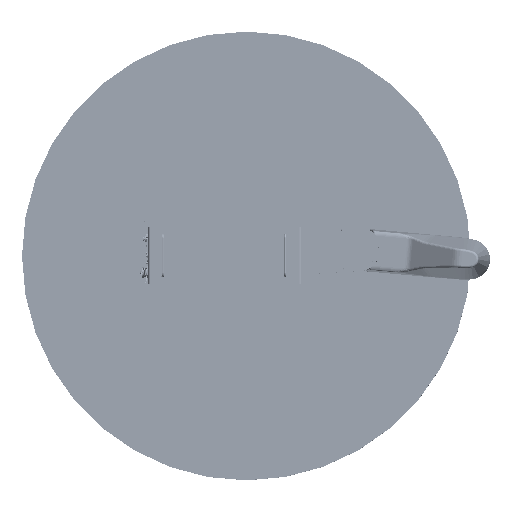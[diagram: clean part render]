
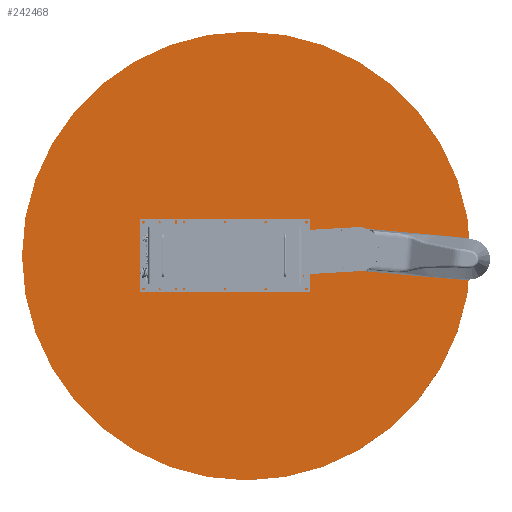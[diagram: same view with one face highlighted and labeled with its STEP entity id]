
A CAD part, top view. The second image highlights one B-rep face of the part: STEP entity #242468.
In plain terms, the highlighted planar face has unit normal (0, 0, 1) as drawn and (0, 1, 0) by its records, which use the part's own axes.
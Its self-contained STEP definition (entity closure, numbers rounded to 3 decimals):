
#10653 = CIRCLE ( 'NONE', #168364, 550. ) ;
#21027 = DIRECTION ( 'NONE',  ( 0., 0., 1. ) ) ;
#45183 = FACE_OUTER_BOUND ( 'NONE', #253695, .T. ) ;
#60055 = VERTEX_POINT ( 'NONE', #170536 ) ;
#62907 = EDGE_CURVE ( 'NONE', #60055, #138890, #228118, .T. ) ;
#74538 = ORIENTED_EDGE ( 'NONE', *, *, #62907, .T. ) ;
#79814 = CARTESIAN_POINT ( 'NONE',  ( 0., 140., -550. ) ) ;
#106283 = PLANE ( 'NONE',  #136913 ) ;
#122826 = ORIENTED_EDGE ( 'NONE', *, *, #184221, .T. ) ;
#129513 = CARTESIAN_POINT ( 'NONE',  ( 0., 140., 0. ) ) ;
#136913 = AXIS2_PLACEMENT_3D ( 'NONE', #148566, #252584, #231419 ) ;
#138890 = VERTEX_POINT ( 'NONE', #79814 ) ;
#148566 = CARTESIAN_POINT ( 'NONE',  ( 0., 140., 0. ) ) ;
#168364 = AXIS2_PLACEMENT_3D ( 'NONE', #242697, #222422, #262978 ) ;
#170536 = CARTESIAN_POINT ( 'NONE',  ( 0., 140., 550. ) ) ;
#171026 = DIRECTION ( 'NONE',  ( 0., 1., 0. ) ) ;
#172604 = AXIS2_PLACEMENT_3D ( 'NONE', #129513, #171026, #21027 ) ;
#184221 = EDGE_CURVE ( 'NONE', #138890, #60055, #10653, .T. ) ;
#222422 = DIRECTION ( 'NONE',  ( 0., 1., 0. ) ) ;
#228118 = CIRCLE ( 'NONE', #172604, 550. ) ;
#231419 = DIRECTION ( 'NONE',  ( 0., 0., 1. ) ) ;
#242468 = ADVANCED_FACE ( 'NONE', ( #45183 ), #106283, .T. ) ;
#242697 = CARTESIAN_POINT ( 'NONE',  ( 0., 140., 0. ) ) ;
#252584 = DIRECTION ( 'NONE',  ( 0., 1., 0. ) ) ;
#253695 = EDGE_LOOP ( 'NONE', ( #122826, #74538 ) ) ;
#262978 = DIRECTION ( 'NONE',  ( 0., 0., 1. ) ) ;
